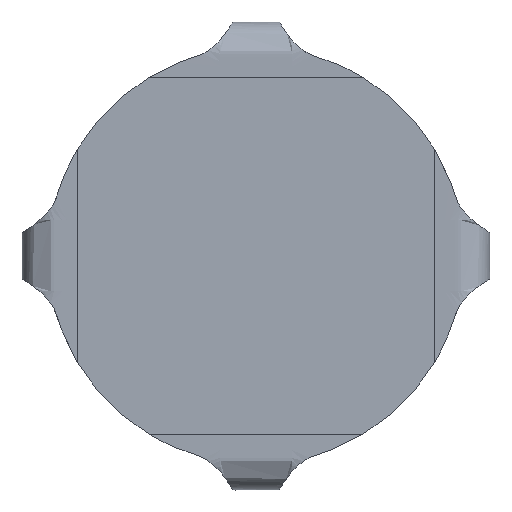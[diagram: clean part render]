
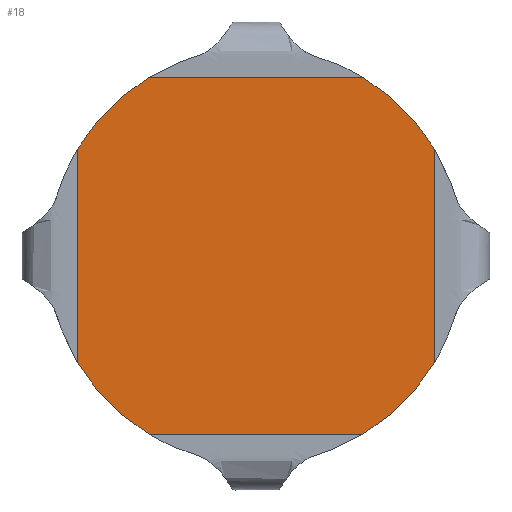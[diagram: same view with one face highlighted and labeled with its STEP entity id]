
A CAD part, top view. The second image highlights one B-rep face of the part: STEP entity #18.
In plain terms, the highlighted planar face has unit normal (0, 0, 1).
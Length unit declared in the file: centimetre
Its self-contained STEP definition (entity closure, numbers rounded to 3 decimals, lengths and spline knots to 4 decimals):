
#18=ADVANCED_FACE($,(#56),#472,.T.);
#56=FACE_OUTER_BOUND($,#94,.T.);
#94=EDGE_LOOP($,(#144,#145,#146,#147,#148,#149,#150,#151));
#144=ORIENTED_EDGE($,*,*,#348,.T.);
#145=ORIENTED_EDGE($,*,*,#341,.T.);
#146=ORIENTED_EDGE($,*,*,#351,.T.);
#147=ORIENTED_EDGE($,*,*,#332,.T.);
#148=ORIENTED_EDGE($,*,*,#350,.T.);
#149=ORIENTED_EDGE($,*,*,#323,.T.);
#150=ORIENTED_EDGE($,*,*,#349,.T.);
#151=ORIENTED_EDGE($,*,*,#314,.T.);
#314=EDGE_CURVE($,#406,#405,#536,.T.);
#323=EDGE_CURVE($,#412,#411,#545,.T.);
#332=EDGE_CURVE($,#418,#417,#554,.T.);
#341=EDGE_CURVE($,#424,#423,#563,.T.);
#348=EDGE_CURVE($,#405,#424,#570,.T.);
#349=EDGE_CURVE($,#411,#406,#571,.T.);
#350=EDGE_CURVE($,#417,#412,#572,.T.);
#351=EDGE_CURVE($,#423,#418,#573,.T.);
#405=VERTEX_POINT($,#4399);
#406=VERTEX_POINT($,#4400);
#411=VERTEX_POINT($,#4405);
#412=VERTEX_POINT($,#4406);
#417=VERTEX_POINT($,#4411);
#418=VERTEX_POINT($,#4412);
#423=VERTEX_POINT($,#4417);
#424=VERTEX_POINT($,#4418);
#472=PLANE($,#678);
#536=B_SPLINE_CURVE_WITH_KNOTS($,3,(#768,#769,#770,#771),.UNSPECIFIED.,.F.,
.F.,(4,4),(152.9166,227.2671),.UNSPECIFIED.);
#545=B_SPLINE_CURVE_WITH_KNOTS($,3,(#926,#927,#928,#929),.UNSPECIFIED.,.F.,
.F.,(4,4),(152.9166,227.2671),.UNSPECIFIED.);
#554=B_SPLINE_CURVE_WITH_KNOTS($,3,(#1084,#1085,#1086,#1087),.UNSPECIFIED.,
.F.,.F.,(4,4),(152.9166,227.2671),.UNSPECIFIED.);
#563=B_SPLINE_CURVE_WITH_KNOTS($,3,(#1242,#1243,#1244,#1245),.UNSPECIFIED.,
.F.,.F.,(4,4),(152.9166,227.2671),.UNSPECIFIED.);
#570=B_SPLINE_CURVE_WITH_KNOTS($,3,(#1328,#1329,#1330,#1331,#1332),.UNSPECIFIED.,
.F.,.F.,(4,1,4),(771.837,789.7445,807.6519),.UNSPECIFIED.);
#571=B_SPLINE_CURVE_WITH_KNOTS($,3,(#1333,#1334,#1335,#1336,#1337),.UNSPECIFIED.,
.F.,.F.,(4,1,4),(1102.3332,1120.2406,1138.1481),.UNSPECIFIED.);
#572=B_SPLINE_CURVE_WITH_KNOTS($,3,(#1338,#1339,#1340,#1341,#1342),.UNSPECIFIED.,
.F.,.F.,(4,1,4),(992.1678,1010.0752,1027.9827),.UNSPECIFIED.);
#573=B_SPLINE_CURVE_WITH_KNOTS($,3,(#1343,#1344,#1345,#1346,#1347),.UNSPECIFIED.,
.F.,.F.,(4,1,4),(882.0024,899.9099,917.8173),.UNSPECIFIED.);
#678=AXIS2_PLACEMENT_3D($,#1984,#687,$);
#687=DIRECTION($,(0.,0.,1.));
#768=CARTESIAN_POINT($,(-62.258,109.6899,77.));
#769=CARTESIAN_POINT($,(-62.258,84.9064,77.));
#770=CARTESIAN_POINT($,(-62.258,60.1229,77.));
#771=CARTESIAN_POINT($,(-62.258,35.3394,77.));
#926=CARTESIAN_POINT($,(37.1606,134.758,77.));
#927=CARTESIAN_POINT($,(12.3771,134.758,77.));
#928=CARTESIAN_POINT($,(-12.4064,134.758,77.));
#929=CARTESIAN_POINT($,(-37.1899,134.758,77.));
#1084=CARTESIAN_POINT($,(62.2288,35.3394,77.));
#1085=CARTESIAN_POINT($,(62.2288,60.1229,77.));
#1086=CARTESIAN_POINT($,(62.2288,84.9064,77.));
#1087=CARTESIAN_POINT($,(62.2288,109.6899,77.));
#1242=CARTESIAN_POINT($,(-37.1899,10.2712,77.));
#1243=CARTESIAN_POINT($,(-12.4064,10.2712,77.));
#1244=CARTESIAN_POINT($,(12.3771,10.2712,77.));
#1245=CARTESIAN_POINT($,(37.1606,10.2712,77.));
#1328=CARTESIAN_POINT($,(-62.258,35.3394,77.));
#1329=CARTESIAN_POINT($,(-59.232,30.2656,77.));
#1330=CARTESIAN_POINT($,(-51.8127,20.7166,77.));
#1331=CARTESIAN_POINT($,(-42.2637,13.2973,77.));
#1332=CARTESIAN_POINT($,(-37.1899,10.2712,77.));
#1333=CARTESIAN_POINT($,(-37.1899,134.758,77.));
#1334=CARTESIAN_POINT($,(-42.2637,131.732,77.));
#1335=CARTESIAN_POINT($,(-51.8127,124.3127,77.));
#1336=CARTESIAN_POINT($,(-59.232,114.7637,77.));
#1337=CARTESIAN_POINT($,(-62.258,109.6899,77.));
#1338=CARTESIAN_POINT($,(62.2288,109.6899,77.));
#1339=CARTESIAN_POINT($,(59.2027,114.7637,77.));
#1340=CARTESIAN_POINT($,(51.7834,124.3127,77.));
#1341=CARTESIAN_POINT($,(42.2344,131.732,77.));
#1342=CARTESIAN_POINT($,(37.1606,134.758,77.));
#1343=CARTESIAN_POINT($,(37.1606,10.2712,77.));
#1344=CARTESIAN_POINT($,(42.2344,13.2973,77.));
#1345=CARTESIAN_POINT($,(51.7834,20.7166,77.));
#1346=CARTESIAN_POINT($,(59.2027,30.2656,77.));
#1347=CARTESIAN_POINT($,(62.2288,35.3394,77.));
#1984=CARTESIAN_POINT($,(-62.2581,10.2711,77.));
#4399=CARTESIAN_POINT($,(-62.258,35.3394,77.));
#4400=CARTESIAN_POINT($,(-62.258,109.6899,77.));
#4405=CARTESIAN_POINT($,(-37.1899,134.758,77.));
#4406=CARTESIAN_POINT($,(37.1606,134.758,77.));
#4411=CARTESIAN_POINT($,(62.2288,109.6899,77.));
#4412=CARTESIAN_POINT($,(62.2288,35.3394,77.));
#4417=CARTESIAN_POINT($,(37.1606,10.2712,77.));
#4418=CARTESIAN_POINT($,(-37.1899,10.2712,77.));
